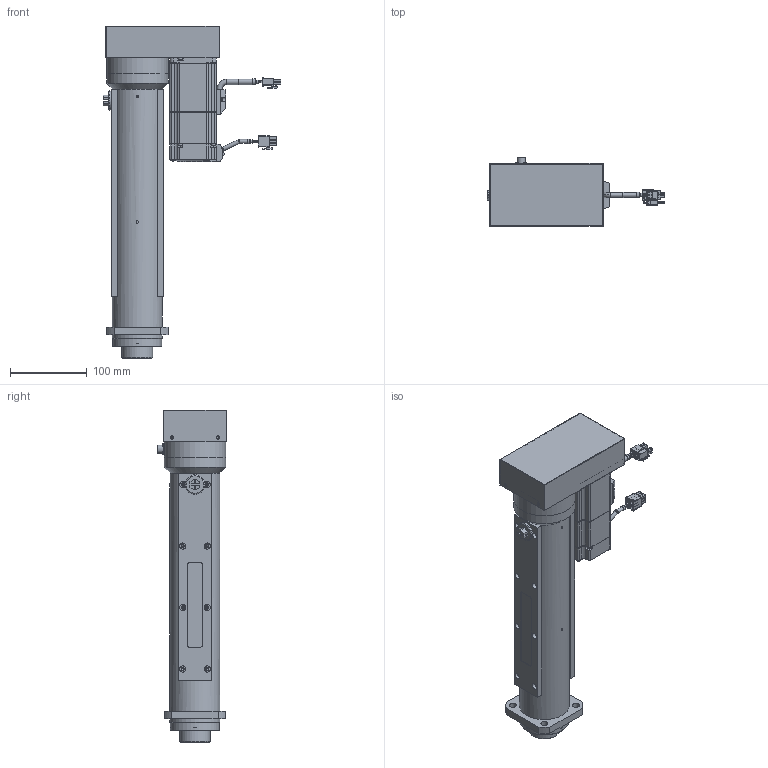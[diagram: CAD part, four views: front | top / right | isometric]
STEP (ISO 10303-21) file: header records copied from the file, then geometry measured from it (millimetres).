
FILE_DESCRIPTION( ('This file contains a STEP AP42 implementation' ,'as created by ZW3D STEP Interface translator.') ,'2;1' );
FILE_NAME( 'OACIS-DC-P001-P002-200-300-A6_V20.02.stp' ,'25 715. 81825', (''), ('ZWCAD Software Co.'), 'Version 1.0', 'ZW3D to STEP translator', '' );
FILE_SCHEMA(('AUTOMOTIVE_DESIGN { 1 0 10303 214 1 1 1 1 }'));
Length unit declared in the file: millimetre
Products named in the file (2): 0; OACIS-DC-P001-P002-200-300-A6_V20.02001
Bounding box: 230.44 x 89.7 x 432 mm (x, y, z)
Volume: 1706422.5 mm3; surface area: 466127.5 mm2
Topology: 26 solids, 35 shells, 2036 faces, 5354 edges, 3560 vertices
Faces by surface type: plane 1088, cylinder 570, cone 260, torus 85, sphere 27, bspline 6
Full cylindrical faces by diameter (mm): 1 x17, 1.567 x4, 1.754 x3, 1.755 x1, 1.82 x4, 2 x5, 2.2 x4, 2.5 x8, 2.6 x15, 3.242 x22, 3.3 x33, 3.4 x4, 4 x10, 4.134 x5, 4.2 x4, 4.3 x16, 4.5 x25, 4.917 x1, 5 x3, 5.1 x2, 5.5 x8, 6 x18, 6.5 x4, 6.799 x3, 7 x10, 7.188 x1, 7.8 x1, 8 x17, 9 x5, 9.5 x4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
Entity records: 67129 total; most frequent: CARTESIAN_POINT 13166, DIRECTION 11082, ORIENTED_EDGE 10580, EDGE_CURVE 5290, AXIS2_PLACEMENT_3D 4080, VERTEX_POINT 3560, VECTOR 2922, LINE 2922
